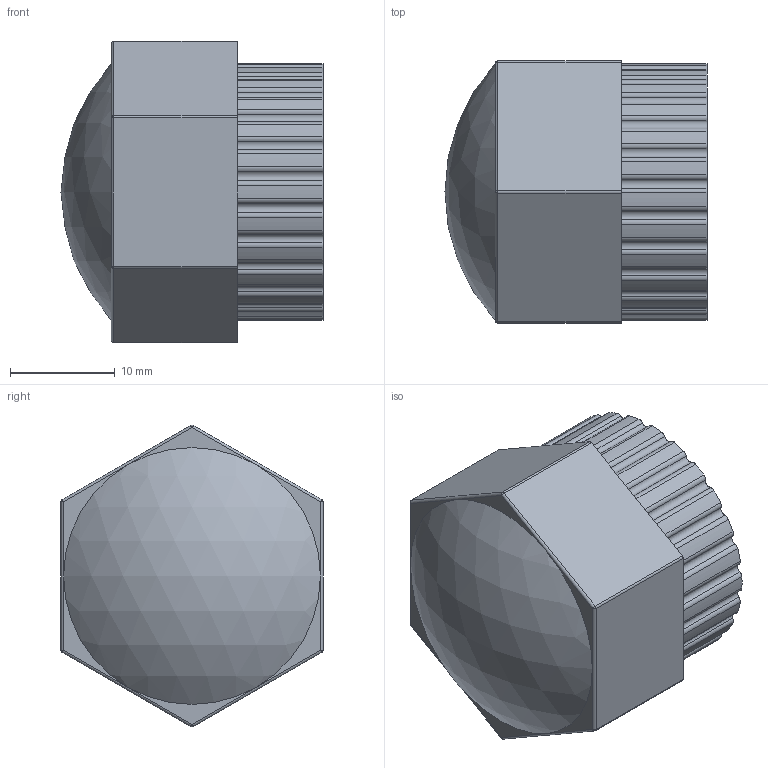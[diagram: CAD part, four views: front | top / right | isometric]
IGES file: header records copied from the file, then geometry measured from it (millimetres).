
Global section: file name: 050701003.ipt; native system: Autodesk Inventor 2015; preprocessor: unknown; author: KIM; date: 20171207.164836; units: millimetre
Bounding box: 25 x 25 x 28.79 mm (x, y, z)
Volume: 8405 mm3; surface area: 3655.1 mm2
Topology: 1 solids, 1 shells, 135 faces, 371 edges, 240 vertices
Faces by surface type: cylinder 87, revolution 27, plane 14, sphere 7
